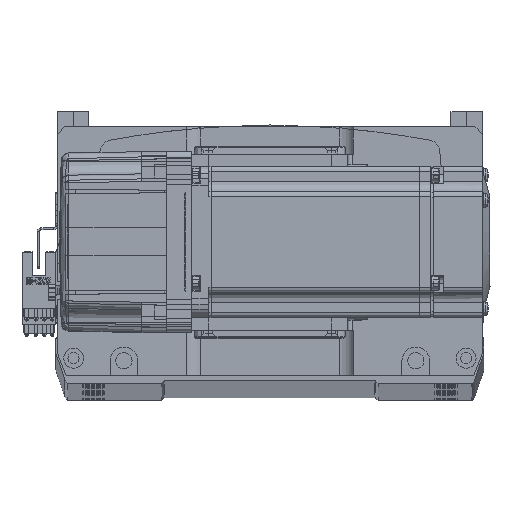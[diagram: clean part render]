
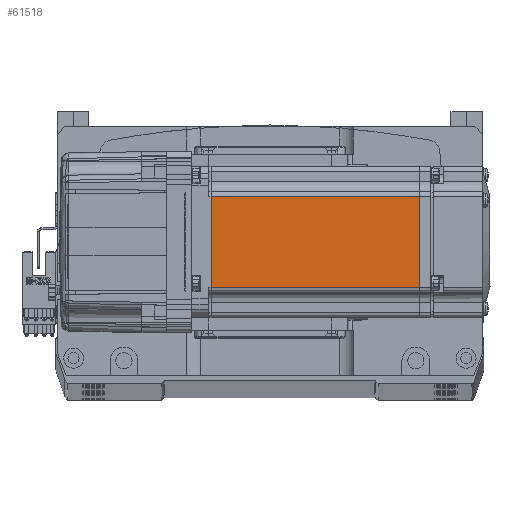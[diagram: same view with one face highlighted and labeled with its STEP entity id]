
A CAD part, top view. The second image highlights one B-rep face of the part: STEP entity #61518.
In plain terms, the highlighted planar face has unit normal (0, 0, 1) as drawn and (0, -1, 0) by its records, which use the part's own axes.
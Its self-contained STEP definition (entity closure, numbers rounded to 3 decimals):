
#1521 = DIRECTION ( 'NONE',  ( -1., 0., 0. ) ) ;
#2474 = VERTEX_POINT ( 'NONE', #65139 ) ;
#2484 = CARTESIAN_POINT ( 'NONE',  ( -7.75, -30., -25. ) ) ;
#5853 = DIRECTION ( 'NONE',  ( 0., 0., -1. ) ) ;
#6077 = CARTESIAN_POINT ( 'NONE',  ( -6.5, -30., -18. ) ) ;
#9458 = DIRECTION ( 'NONE',  ( 0., 0., 1. ) ) ;
#11055 = AXIS2_PLACEMENT_3D ( 'NONE', #29549, #40055, #5853 ) ;
#13693 = EDGE_CURVE ( 'NONE', #62628, #48962, #42981, .T. ) ;
#15809 = LINE ( 'NONE', #2484, #57748 ) ;
#16822 = DIRECTION ( 'NONE',  ( 1., 0., 0. ) ) ;
#18451 = CARTESIAN_POINT ( 'NONE',  ( -6.5, -30., 18. ) ) ;
#18992 = DIRECTION ( 'NONE',  ( 0., 0., -1. ) ) ;
#25072 = VECTOR ( 'NONE', #1521, 1000. ) ;
#28426 = ORIENTED_EDGE ( 'NONE', *, *, #73241, .T. ) ;
#29074 = EDGE_LOOP ( 'NONE', ( #51191, #50941, #66187, #28426 ) ) ;
#29549 = CARTESIAN_POINT ( 'NONE',  ( -6.5, -30., -25. ) ) ;
#30441 = FACE_OUTER_BOUND ( 'NONE', #29074, .T. ) ;
#31304 = CARTESIAN_POINT ( 'NONE',  ( -90.45, -30., 18. ) ) ;
#32670 = VECTOR ( 'NONE', #18992, 1000. ) ;
#33584 = VERTEX_POINT ( 'NONE', #39550 ) ;
#37409 = EDGE_CURVE ( 'NONE', #48962, #2474, #57618, .T. ) ;
#38273 = CARTESIAN_POINT ( 'NONE',  ( -90.45, -30., -25. ) ) ;
#39550 = CARTESIAN_POINT ( 'NONE',  ( -7.75, -30., -18. ) ) ;
#40055 = DIRECTION ( 'NONE',  ( 0., -1., 0. ) ) ;
#40296 = PLANE ( 'NONE',  #11055 ) ;
#42981 = LINE ( 'NONE', #18451, #25072 ) ;
#45323 = VECTOR ( 'NONE', #16822, 1000. ) ;
#48962 = VERTEX_POINT ( 'NONE', #31304 ) ;
#49310 = CARTESIAN_POINT ( 'NONE',  ( -7.75, -30., 18. ) ) ;
#50941 = ORIENTED_EDGE ( 'NONE', *, *, #13693, .T. ) ;
#51191 = ORIENTED_EDGE ( 'NONE', *, *, #52307, .T. ) ;
#52307 = EDGE_CURVE ( 'NONE', #33584, #62628, #15809, .T. ) ;
#57618 = LINE ( 'NONE', #38273, #32670 ) ;
#57748 = VECTOR ( 'NONE', #9458, 1000. ) ;
#61518 = ADVANCED_FACE ( 'NONE', ( #30441 ), #40296, .T. ) ;
#62628 = VERTEX_POINT ( 'NONE', #49310 ) ;
#64924 = LINE ( 'NONE', #6077, #45323 ) ;
#65139 = CARTESIAN_POINT ( 'NONE',  ( -90.45, -30., -18. ) ) ;
#66187 = ORIENTED_EDGE ( 'NONE', *, *, #37409, .T. ) ;
#73241 = EDGE_CURVE ( 'NONE', #2474, #33584, #64924, .T. ) ;
